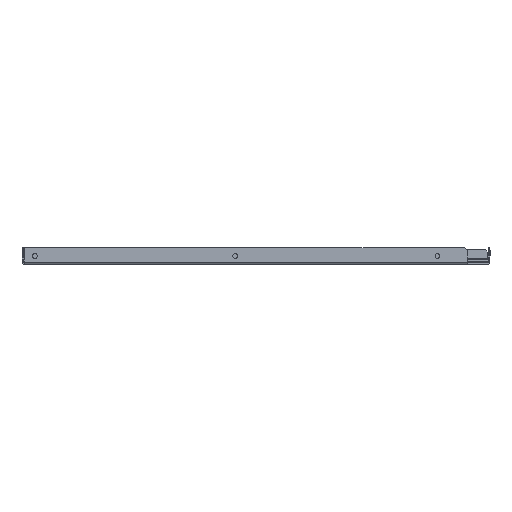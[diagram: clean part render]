
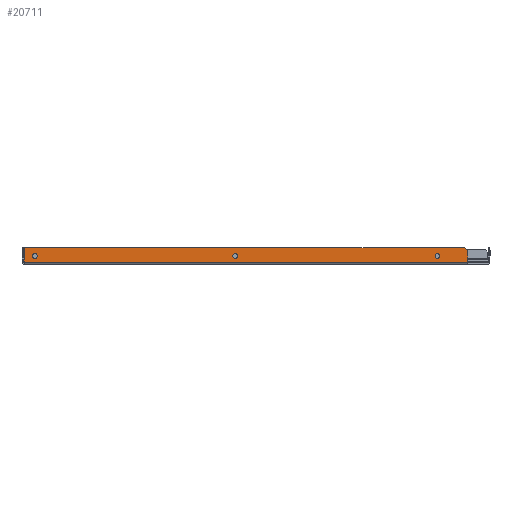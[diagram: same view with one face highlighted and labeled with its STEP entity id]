
A CAD part, left-side view. The second image highlights one B-rep face of the part: STEP entity #20711.
In plain terms, the highlighted planar face has unit normal (-1, 0, 0).
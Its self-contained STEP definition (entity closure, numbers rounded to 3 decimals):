
#9066=CARTESIAN_POINT(' ',(-234.5,-188.25,10.5));
#9067=VERTEX_POINT(' ',#9066);
#9081=CARTESIAN_POINT(' ',(-234.5,-188.25,10.5));
#9086=DIRECTION(' ',(0.,0.,-1.));
#9091=VECTOR(' ',#9086,1.);
#9096=LINE('',#9081,#9091);
#9101=CARTESIAN_POINT(' ',(-234.5,-188.25,0.6));
#9102=VERTEX_POINT(' ',#9101);
#9106=EDGE_CURVE(' ',#9067,#9102,#9096,.T.);
#20111=CARTESIAN_POINT(' ',(-234.5,206.043,0.6));
#20112=VERTEX_POINT(' ',#20111);
#20211=CARTESIAN_POINT(' ',(-234.5,-188.25,10.5));
#20216=DIRECTION(' ',(0.,0.707,0.707));
#20221=VECTOR(' ',#20216,1.);
#20226=LINE('',#20211,#20221);
#20231=CARTESIAN_POINT(' ',(-234.5,-185.25,13.5));
#20232=VERTEX_POINT(' ',#20231);
#20236=EDGE_CURVE(' ',#9067,#20232,#20226,.T.);
#20301=DIRECTION(' ',(-1.,-0.,0.));
#20306=CARTESIAN_POINT(' ',(-234.5,-188.25,13.5));
#20311=DIRECTION(' ',(-0.,1.,0.));
#20316=AXIS2_PLACEMENT_3D(' ',#20306,#20301,#20311);
#20321=PLANE('NONE',#20316);
#20326=ORIENTED_EDGE(' ',*,*,#9106,.F.);
#20331=ORIENTED_EDGE(' ',*,*,#20236,.T.);
#20336=CARTESIAN_POINT(' ',(-234.5,-185.25,13.5));
#20341=DIRECTION(' ',(0.,1.,0.));
#20346=VECTOR(' ',#20341,1.);
#20351=LINE('',#20336,#20346);
#20356=CARTESIAN_POINT(' ',(-234.5,206.043,13.5));
#20357=VERTEX_POINT(' ',#20356);
#20361=EDGE_CURVE(' ',#20232,#20357,#20351,.T.);
#20366=ORIENTED_EDGE(' ',*,*,#20361,.T.);
#20371=CARTESIAN_POINT(' ',(-234.5,206.043,0.6));
#20376=DIRECTION(' ',(0.,0.,1.));
#20381=VECTOR(' ',#20376,1.);
#20386=LINE('',#20371,#20381);
#20391=EDGE_CURVE(' ',#20112,#20357,#20386,.T.);
#20396=ORIENTED_EDGE(' ',*,*,#20391,.F.);
#20401=CARTESIAN_POINT(' ',(-234.5,-188.25,0.6));
#20406=DIRECTION(' ',(0.,1.,0.));
#20411=VECTOR(' ',#20406,1.);
#20416=LINE('',#20401,#20411);
#20421=EDGE_CURVE(' ',#9102,#20112,#20416,.T.);
#20426=ORIENTED_EDGE(' ',*,*,#20421,.F.);
#20431=EDGE_LOOP(' ',(#20326,#20331,#20366,#20396,#20426));
#20436=FACE_OUTER_BOUND(' ',#20431,.T.);
#20441=CARTESIAN_POINT(' ',(-234.5,196.75,6.));
#20446=DIRECTION(' ',(-1.,-0.,0.));
#20451=DIRECTION(' ',(0.,0.,1.));
#20456=AXIS2_PLACEMENT_3D(' ',#20441,#20446,#20451);
#20461=CIRCLE('',#20456,2.1);
#20466=CARTESIAN_POINT(' ',(-234.5,196.75,8.1));
#20467=VERTEX_POINT(' ',#20466);
#20471=CARTESIAN_POINT(' ',(-234.5,196.75,3.9));
#20472=VERTEX_POINT(' ',#20471);
#20476=EDGE_CURVE(' ',#20467,#20472,#20461,.T.);
#20481=ORIENTED_EDGE(' ',*,*,#20476,.F.);
#20486=CARTESIAN_POINT(' ',(-234.5,196.75,6.));
#20491=DIRECTION(' ',(-1.,0.,0.));
#20496=DIRECTION(' ',(0.,0.,-1.));
#20501=AXIS2_PLACEMENT_3D(' ',#20486,#20491,#20496);
#20506=CIRCLE('',#20501,2.1);
#20511=EDGE_CURVE(' ',#20472,#20467,#20506,.T.);
#20516=ORIENTED_EDGE(' ',*,*,#20511,.F.);
#20521=EDGE_LOOP(' ',(#20481,#20516));
#20526=FACE_BOUND(' ',#20521,.T.);
#20531=CARTESIAN_POINT(' ',(-234.5,-161.5,6.));
#20536=DIRECTION(' ',(-1.,-0.,0.));
#20541=DIRECTION(' ',(0.,0.,1.));
#20546=AXIS2_PLACEMENT_3D(' ',#20531,#20536,#20541);
#20551=CIRCLE('',#20546,2.1);
#20556=CARTESIAN_POINT(' ',(-234.5,-161.5,8.1));
#20557=VERTEX_POINT(' ',#20556);
#20561=CARTESIAN_POINT(' ',(-234.5,-161.5,3.9));
#20562=VERTEX_POINT(' ',#20561);
#20566=EDGE_CURVE(' ',#20557,#20562,#20551,.T.);
#20571=ORIENTED_EDGE(' ',*,*,#20566,.F.);
#20576=CARTESIAN_POINT(' ',(-234.5,-161.5,6.));
#20581=DIRECTION(' ',(-1.,0.,0.));
#20586=DIRECTION(' ',(0.,0.,-1.));
#20591=AXIS2_PLACEMENT_3D(' ',#20576,#20581,#20586);
#20596=CIRCLE('',#20591,2.1);
#20601=EDGE_CURVE(' ',#20562,#20557,#20596,.T.);
#20606=ORIENTED_EDGE(' ',*,*,#20601,.F.);
#20611=EDGE_LOOP(' ',(#20571,#20606));
#20616=FACE_BOUND(' ',#20611,.T.);
#20621=CARTESIAN_POINT(' ',(-234.5,18.5,6.));
#20626=DIRECTION(' ',(-1.,-0.,0.));
#20631=DIRECTION(' ',(0.,0.,1.));
#20636=AXIS2_PLACEMENT_3D(' ',#20621,#20626,#20631);
#20641=CIRCLE('',#20636,2.1);
#20646=CARTESIAN_POINT(' ',(-234.5,18.5,8.1));
#20647=VERTEX_POINT(' ',#20646);
#20651=CARTESIAN_POINT(' ',(-234.5,18.5,3.9));
#20652=VERTEX_POINT(' ',#20651);
#20656=EDGE_CURVE(' ',#20647,#20652,#20641,.T.);
#20661=ORIENTED_EDGE(' ',*,*,#20656,.F.);
#20666=CARTESIAN_POINT(' ',(-234.5,18.5,6.));
#20671=DIRECTION(' ',(-1.,0.,0.));
#20676=DIRECTION(' ',(0.,0.,-1.));
#20681=AXIS2_PLACEMENT_3D(' ',#20666,#20671,#20676);
#20686=CIRCLE('',#20681,2.1);
#20691=EDGE_CURVE(' ',#20652,#20647,#20686,.T.);
#20696=ORIENTED_EDGE(' ',*,*,#20691,.F.);
#20701=EDGE_LOOP(' ',(#20661,#20696));
#20706=FACE_BOUND(' ',#20701,.T.);
#20711=ADVANCED_FACE('NONE',(#20436,#20526,#20616,#20706),#20321,.T.);
